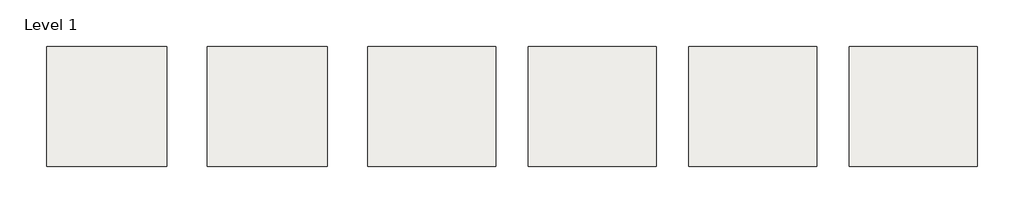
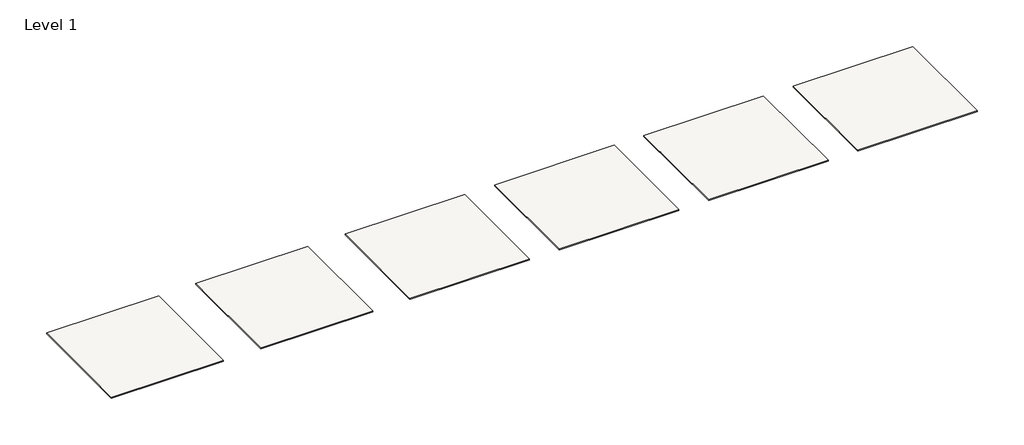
# One storey: 6 coverings.
"""IFC4 building model written with IfcOpenShell, lengths in millimetres."""

from ifc_helpers import new_model, si_unit, origin, origin_with_axes, place, context, project, spatial, polyline, outline, extrude, element, save

model = new_model("IFC4")

# Units and contexts
model_context = context("Model", 3, world=origin())
ifc_project = project(units=[si_unit("LENGTHUNIT", "METRE", prefix="MILLI")], contexts=[model_context])

# Site, building, storey
site = spatial("IfcSite", under=ifc_project)
building = spatial("IfcBuilding", under=site)
storey = spatial("IfcBuildingStorey", under=building, Name="Level 1", Elevation=0.0)

# Coverings
placement = place(None, origin())
element("IfcCovering", 1, ObjectType="Spanair Torsion Spring Plus - 36''x36''x1.680”", at=placement, inside=storey, context=model_context, shape_type="SweptSolid", body=[
    extrude(outline(polyline([(-9124.3776569, 1606.0929166), (-9124.3776569, -2965.9070834), (-13696.3776569, -2965.9070834), (-13696.3776569, 1606.0929166), (-9124.3776569, 1606.0929166)])), origin_with_axes(), (0.0, 0.0, 1.0), 42.672),
])
element("IfcCovering", 2, ObjectType="Spanair Torsion Spring Plus - 36''x72''x1.680”", at=placement, inside=storey, context=model_context, shape_type="SweptSolid", body=[
    extrude(outline(polyline([(-3028.3776569, 1606.0929166), (-3028.3776569, -2965.9070834), (-7600.3776569, -2965.9070834), (-7600.3776569, 1606.0929166), (-3028.3776569, 1606.0929166)])), origin_with_axes(), (0.0, 0.0, 1.0), 42.672),
])
element("IfcCovering", 3, ObjectType="Spanair Torsion Spring Plus - 48''x48''x1.680”", at=placement, inside=storey, context=model_context, shape_type="SweptSolid", body=[
    extrude(outline(polyline([(3372.4223431, 1606.0929166), (3372.4223431, -2965.9070834), (-1504.3776569, -2965.9070834), (-1504.3776569, 1606.0929166), (3372.4223431, 1606.0929166)])), origin_with_axes(), (0.0, 0.0, 1.0), 42.672),
])
element("IfcCovering", 4, ObjectType="Spanair Torsion Spring Plus - 48''x72''x1.680”", at=placement, inside=storey, context=model_context, shape_type="SweptSolid", body=[
    extrude(outline(polyline([(9468.4223431, 1606.0929166), (9468.4223431, -2965.9070834), (4591.6223431, -2965.9070834), (4591.6223431, 1606.0929166), (9468.4223431, 1606.0929166)])), origin_with_axes(), (0.0, 0.0, 1.0), 42.672),
])
element("IfcCovering", 5, ObjectType="Spanair Torsion Spring Plus - 48''x96''x1.680”", at=placement, inside=storey, context=model_context, shape_type="SweptSolid", body=[
    extrude(outline(polyline([(15564.4223431, 1606.0929166), (15564.4223431, -2965.9070834), (10687.6223431, -2965.9070834), (10687.6223431, 1606.0929166), (15564.4223431, 1606.0929166)])), origin_with_axes(), (0.0, 0.0, 1.0), 42.672),
])
element("IfcCovering", 6, ObjectType="Spanair Torsion Spring Plus - 48''x120''x1.680”", at=placement, inside=storey, context=model_context, shape_type="SweptSolid", body=[
    extrude(outline(polyline([(21660.4223431, 1606.0929166), (21660.4223431, -2965.9070834), (16783.6223431, -2965.9070834), (16783.6223431, 1606.0929166), (21660.4223431, 1606.0929166)])), origin_with_axes(), (0.0, 0.0, 1.0), 42.672),
])

save(model, "model.ifc")
